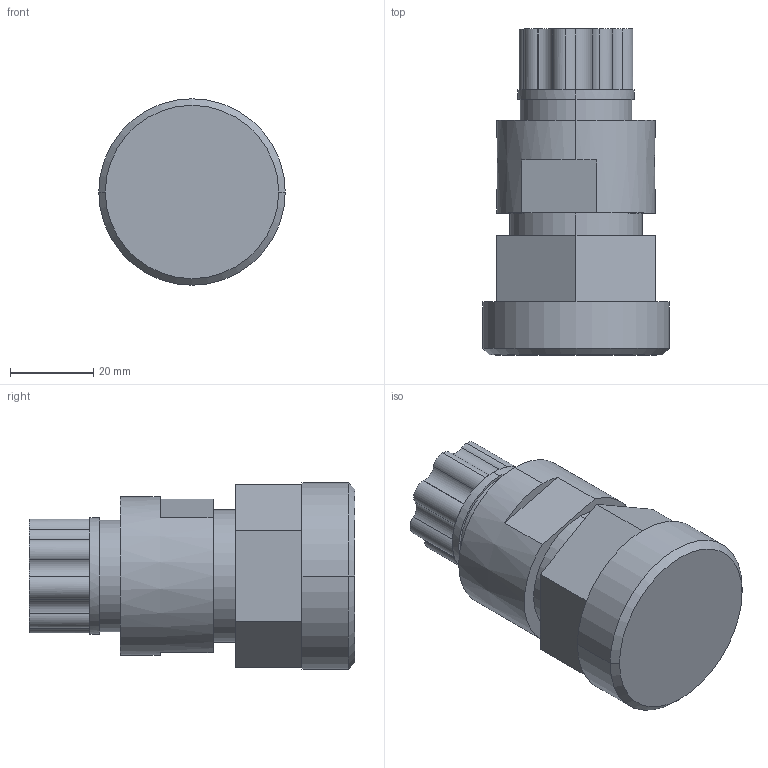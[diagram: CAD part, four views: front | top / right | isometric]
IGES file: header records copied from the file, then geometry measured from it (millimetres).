
Start section: SolidWorks IGES file using analytic representation for surfaces
Global section: file name: S:\Product Visuals\REVISED-60L-TOP-MOUNT-FITTINGS\IGS\synchro-flare\08-synchro-flare-with-top-mount-adapter.IGS; native system: SolidWorks 2012; preprocessor: SolidWorks 2012; author: rachel.dressel; date: 121127.134655; units: inch
Bounding box: 44.7 x 78.14 x 44.7 mm (x, y, z)
Volume: 79494.9 mm3; surface area: 13116.7 mm2
Topology: 1 solids, 1 shells, 61 faces, 149 edges, 96 vertices
Faces by surface type: revolution 35, plane 26
